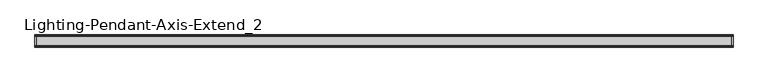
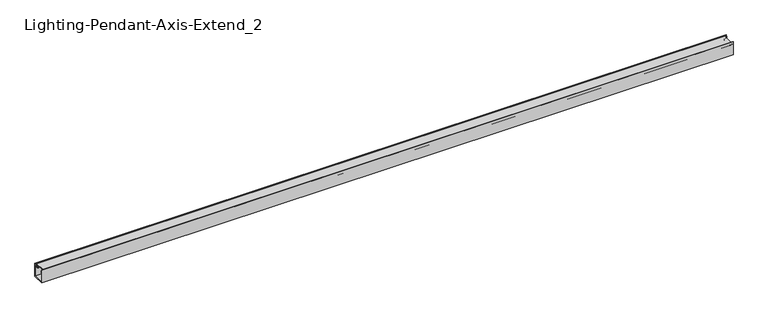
"""IFC4 building model written with IfcOpenShell, lengths in millimetres: light fixture geometry, Lighting-Pendant-Axis-Extend_2 : EX2PD-900-80-35-SO-4."""

from ifc_helpers import new_model, si_unit, point, frame, frame_2d, origin, place, context, project, spatial, polyline, circle_curve, trimmed, segment, composite_curve, outline, extrude, source, transform, mapped, element, save


def lighting_pendant_axis_extend_2_78eecb01(model_context):
    return source(origin(), model_context, "Body", "SweptSolid", [
        extrude(outline(composite_curve([segment(polyline([(-24.1727262, 676.1479991), (-24.5114181, 669.6853737)]), True, "CONTINUOUS"), segment(trimmed(circle_curve(frame_2d((-27.2542, 666.6865)), 4.064), [point((-24.5114181, 669.6853737))], [point((-25.3818814, 663.0794903))], False, "CARTESIAN"), True, "CONTINUOUS"), segment(trimmed(circle_curve(frame_2d((-22.149344, 663.8683457)), 3.3274001), [point((-25.3818814, 663.0794903))], [point((-24.5665956, 661.5817575))], True, "CARTESIAN"), True, "CONTINUOUS"), segment(trimmed(circle_curve(frame_2d((-17.1303177, 668.6160708)), 10.2362001), [point((-24.5665956, 661.5817575))], [point((-23.2119066, 660.3823555))], True, "CARTESIAN"), True, "CONTINUOUS"), segment(trimmed(circle_curve(frame_2d((-23.7023573, 659.7183462)), 0.8255), [point((-23.2119066, 660.3823555))], [point((-24.192808, 659.0543369))], False, "CARTESIAN"), True, "CONTINUOUS"), segment(trimmed(circle_curve(frame_2d((-17.1303169, 668.6160717)), 11.8872013), [point((-24.192808, 659.0543369))], [point((-25.7659952, 660.4471908))], False, "CARTESIAN"), True, "CONTINUOUS"), segment(trimmed(circle_curve(frame_2d((-22.149344, 663.8683457)), 4.9784001), [point((-25.7659952, 660.4471908))], [point((-27.1108807, 664.27776))], False, "CARTESIAN"), True, "CONTINUOUS"), segment(trimmed(circle_curve(frame_2d((-27.2542, 666.6865)), 2.413), [point((-27.1108807, 664.27776))], [point((-25.4753941, 668.3169658))], True, "CARTESIAN"), True, "CONTINUOUS"), segment(trimmed(circle_curve(frame_2d((-23.6029669, 670.0332456)), 2.54), [point((-25.4753941, 668.3169658))], [point((-26.1394859, 670.1661789))], False, "CARTESIAN"), True, "CONTINUOUS"), segment(polyline([(-26.1394859, 670.1661789), (-25.825992, 676.1479991), (-28.829, 676.1479991), (-28.829, 678.053), (28.829, 678.053), (28.829, 676.1479991), (25.825992, 676.1479991), (26.1394859, 670.1661789)]), True, "CONTINUOUS"), segment(trimmed(circle_curve(frame_2d((23.6029669, 670.0332456)), 2.54), [point((26.1394859, 670.1661789))], [point((25.4753941, 668.3169658))], False, "CARTESIAN"), True, "CONTINUOUS"), segment(trimmed(circle_curve(frame_2d((27.2542, 666.6865)), 2.413), [point((25.4753941, 668.3169658))], [point((27.1108807, 664.27776))], True, "CARTESIAN"), True, "CONTINUOUS"), segment(trimmed(circle_curve(frame_2d((22.149344, 663.8683457)), 4.9784001), [point((27.1108807, 664.27776))], [point((25.7659952, 660.4471908))], False, "CARTESIAN"), True, "CONTINUOUS"), segment(trimmed(circle_curve(frame_2d((17.1303169, 668.6160717)), 11.8872013), [point((25.7659952, 660.4471908))], [point((24.192808, 659.0543369))], False, "CARTESIAN"), True, "CONTINUOUS"), segment(trimmed(circle_curve(frame_2d((23.7023573, 659.7183462)), 0.8255), [point((24.192808, 659.0543369))], [point((23.2119066, 660.3823555))], False, "CARTESIAN"), True, "CONTINUOUS"), segment(trimmed(circle_curve(frame_2d((17.1303177, 668.6160708)), 10.2362001), [point((23.2119066, 660.3823555))], [point((24.5665956, 661.5817575))], True, "CARTESIAN"), True, "CONTINUOUS"), segment(trimmed(circle_curve(frame_2d((22.149344, 663.8683457)), 3.3274001), [point((24.5665956, 661.5817575))], [point((25.3818814, 663.0794903))], True, "CARTESIAN"), True, "CONTINUOUS"), segment(trimmed(circle_curve(frame_2d((27.2542, 666.6865)), 4.064), [point((25.3818814, 663.0794903))], [point((24.5114181, 669.6853737))], False, "CARTESIAN"), True, "CONTINUOUS"), segment(polyline([(24.5114181, 669.6853737), (24.1727262, 676.1479991), (-24.1727262, 676.1479991)]), True, "CONTINUOUS")], self_intersect=False)), frame((-1828.8, 0.0, 0.0), z_axis=(1.0, 0.0, 0.0), x_axis=(0.0, 1.0, 0.0)), (0.0, 0.0, 1.0), 3657.6),
        extrude(outline(composite_curve([segment(polyline([(-29.972, 666.1277), (-29.972, 611.632), (29.972, 611.632), (29.972, 666.1277), (28.1325797, 666.1277)]), True, "CONTINUOUS"), segment(trimmed(circle_curve(frame_2d((26.6262297, 666.1277)), 1.5063501), [point((28.1325797, 666.1277))], [point((25.8730546, 664.8231626))], False, "CARTESIAN"), True, "CONTINUOUS"), segment(trimmed(circle_curve(frame_2d((27.0642121, 666.8863079)), 2.382315), [point((25.8730546, 664.8231626))], [point((24.6896516, 667.0783682))], False, "CARTESIAN"), True, "CONTINUOUS"), segment(polyline([(24.6896516, 667.0783682), (28.067, 669.9123), (28.067, 668.1597), (29.972, 668.1597), (29.972, 674.6875), (28.067, 674.6875), (28.067, 673.1635), (26.416, 673.2500252), (26.416, 675.9575), (29.972, 675.9575), (29.972, 681.0375), (32.004, 681.0375), (32.004, 609.6), (-32.004, 609.6), (-32.004, 681.0375), (-29.972, 681.0375), (-29.972, 675.9575), (-26.416, 675.9575), (-26.416, 673.2500252), (-28.067, 673.1635), (-28.067, 674.6875), (-29.972, 674.6875), (-29.972, 668.1597), (-28.067, 668.1597), (-28.067, 669.9123), (-24.6896516, 667.0783682)]), True, "CONTINUOUS"), segment(trimmed(circle_curve(frame_2d((-27.0642121, 666.8863079)), 2.382315), [point((-24.6896516, 667.0783682))], [point((-25.8730546, 664.8231626))], False, "CARTESIAN"), True, "CONTINUOUS"), segment(trimmed(circle_curve(frame_2d((-26.6262297, 666.1277)), 1.5063501), [point((-25.8730546, 664.8231626))], [point((-28.1325797, 666.1277))], False, "CARTESIAN"), True, "CONTINUOUS"), segment(polyline([(-28.1325797, 666.1277), (-29.972, 666.1277)]), True, "CONTINUOUS")], self_intersect=False)), frame((-1837.9567, 0.0, 0.0), z_axis=(1.0, 0.0, 0.0), x_axis=(0.0, 1.0, 0.0)), (0.0, 0.0, 1.0), 3675.9134),
    ])


if __name__ == "__main__":
    model = new_model("IFC4")
    model_context = context("Model", 3, world=origin())
    ifc_project = project(units=[si_unit("LENGTHUNIT", "METRE", prefix="MILLI")], contexts=[model_context])
    site = spatial("IfcSite", under=ifc_project)
    building = spatial("IfcBuilding", under=site)
    placement = place(None, origin())
    lighting_pendant_axis_extend_2_shape = lighting_pendant_axis_extend_2_78eecb01(model_context)
    element("IfcLightFixture", 1, ObjectType="Lighting-Pendant-Axis-Extend_2 : EX2PD-900-80-35-SO-4", at=placement, inside=building, context=model_context, shape_type="MappedRepresentation", body=[
        mapped(lighting_pendant_axis_extend_2_shape, transform((0.0, 0.0, 0.0), x_axis=(1.0, 0.0, 0.0), y_axis=(0.0, 1.0, 0.0), z_axis=(0.0, 0.0, 1.0))),
    ])
    save(model, "model.ifc")
